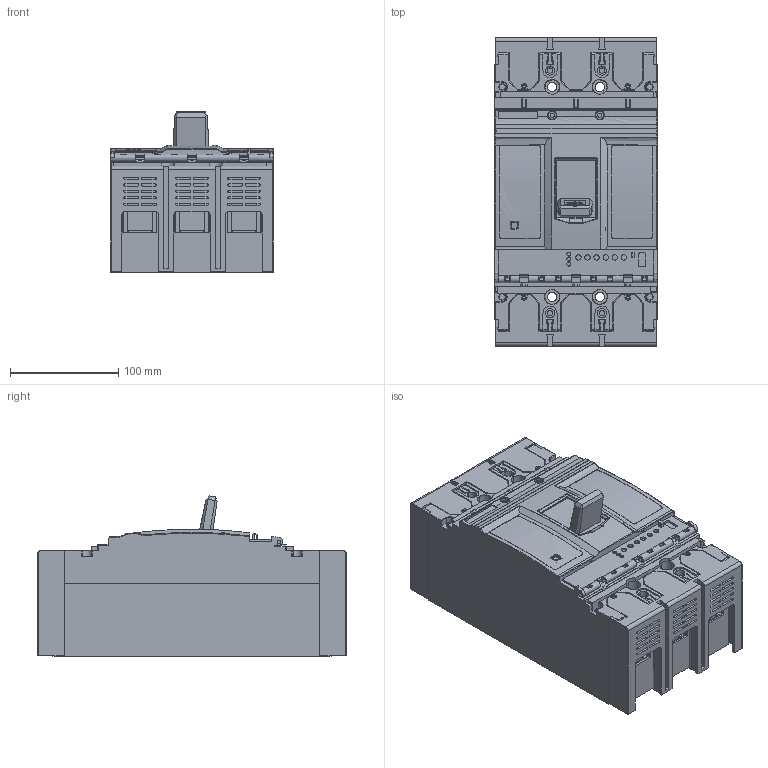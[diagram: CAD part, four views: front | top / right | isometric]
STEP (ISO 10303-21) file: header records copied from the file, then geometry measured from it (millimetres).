
FILE_DESCRIPTION((''),'2;1');
FILE_NAME('TGM3E-400-630_ASM_ASM','2017-04-24T',('CHEN'),(''),'PRO/ENGINEER BY PARAMETRIC TECHNOLOGY CORPORATION, 2016360','PRO/ENGINEER BY PARAMETRIC TECHNOLOGY CORPORATION, 2016360','');
FILE_SCHEMA(('CONFIG_CONTROL_DESIGN','GEOMETRIC_VALIDATION_PROPERTIES_MIM'));
Products named in the file (4): 5TZD-024-1251-1_167_8_1; 8TZD-315-1545_78_5_1; TGM3E-400-630_ASM_1_ASM; TGM3E-400-630_ASM_ASM
Assembly tree (3 placements, depth 3):
  TGM3E-400-630_ASM_ASM
    TGM3E-400-630_ASM_1_ASM
      5TZD-024-1251-1_167_8_1
      8TZD-315-1545_78_5_1
Bounding box: 150 x 284.8 x 148.23 mm (x, y, z)
Volume: 3793694.3 mm3; surface area: 466962.2 mm2
Topology: 2 solids, 61 shells, 3272 faces, 9312 edges, 6194 vertices
Faces by surface type: plane 2001, cylinder 982, bspline 104, torus 81, extrusion 54, sphere 44, cone 6
Entity records: 112300 total; most frequent: CARTESIAN_POINT 25848, ORIENTED_EDGE 18536, DIRECTION 17374, EDGE_CURVE 9268, VECTOR 6292, LINE 6238, VERTEX_POINT 6194, AXIS2_PLACEMENT_3D 5541
